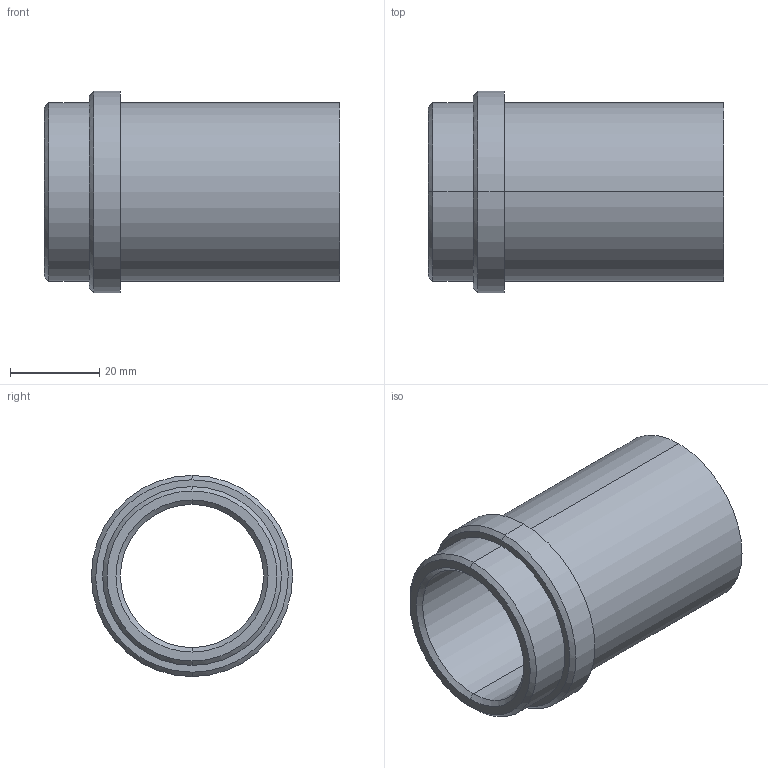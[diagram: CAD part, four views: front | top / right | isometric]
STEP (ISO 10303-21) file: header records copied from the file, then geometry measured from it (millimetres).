
FILE_DESCRIPTION(('CATIA V5 STEP Exchange'),'2;1');
FILE_NAME('C:\Users\Utente\Desktop\IO LAVORO\3D X SITO CF\X SITO\PLASTICA\358\358-32x66.stp','2021-04-09T13:16:22+00:00',('none'),('none'),'CATIA Version 5 Release 20 GA (IN-10)','CATIA V5 STEP AP203','none');
FILE_SCHEMA(('CONFIG_CONTROL_DESIGN'));
Length unit declared in the file: millimetre
Products named in the file (1): 358-32X66
Bounding box: 66 x 45 x 45 mm (x, y, z)
Volume: 31922.8 mm3; surface area: 16310 mm2
Topology: 1 solids, 1 shells, 20 faces, 64 edges, 48 vertices
Faces by surface type: cylinder 8, cone 6, plane 4, torus 2
Entity records: 906 total; most frequent: CARTESIAN_POINT 301, ORIENTED_EDGE 128, DIRECTION 92, EDGE_CURVE 64, AXIS2_PLACEMENT_3D 59, VERTEX_POINT 48, CIRCLE 38, EDGE_LOOP 24
